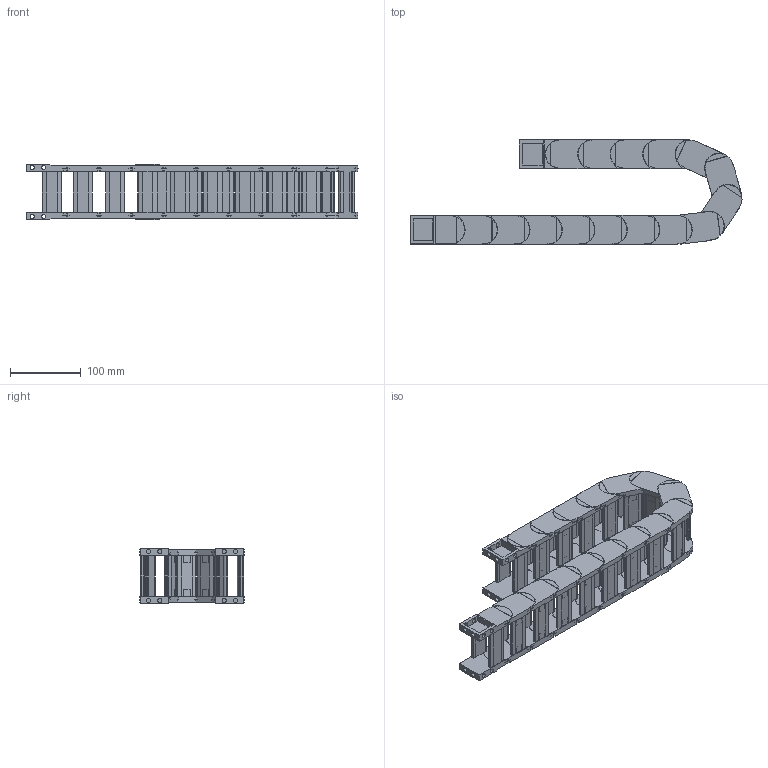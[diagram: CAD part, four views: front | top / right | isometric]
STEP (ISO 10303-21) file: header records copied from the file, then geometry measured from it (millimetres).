
FILE_DESCRIPTION((''),'2;1');
FILE_NAME('HD25-R55-ZPT_ASM','2022-09-04T16:50:02',('admin'),(''),'CREO PARAMETRIC BY PTC INC, 2021164','CREO PARAMETRIC BY PTC INC, 2021164','');
FILE_SCHEMA(('CONFIG_CONTROL_DESIGN','GEOMETRIC_VALIDATION_PROPERTIES_MIM'));
Length unit declared in the file: millimetre
Products named in the file (6): HD30; 25XL-QSYP-103; HD25_ASM; H25-T1; H25-T2; HD25-R55-ZPT_ASM
Assembly tree (21 placements, depth 3):
  HD25-R55-ZPT_ASM
    HD25_ASM  x15
      HD30
      25XL-QSYP-103
    H25-T1
    H25-T2
    25XL-QSYP-103  x2
Bounding box: 470.59 x 148.37 x 78.9 mm (x, y, z)
Volume: 795198.4 mm3; surface area: 430801.3 mm2
Topology: 68 solids, 98 shells, 1726 faces, 4375 edges, 2917 vertices
Faces by surface type: plane 1286, cylinder 380, torus 60
Entity records: 10721 total; most frequent: CARTESIAN_POINT 1520, DIRECTION 1466, ORIENTED_EDGE 1406, EDGE_CURVE 703, VECTOR 522, LINE 522, AXIS2_PLACEMENT_3D 472, VERTEX_POINT 469
